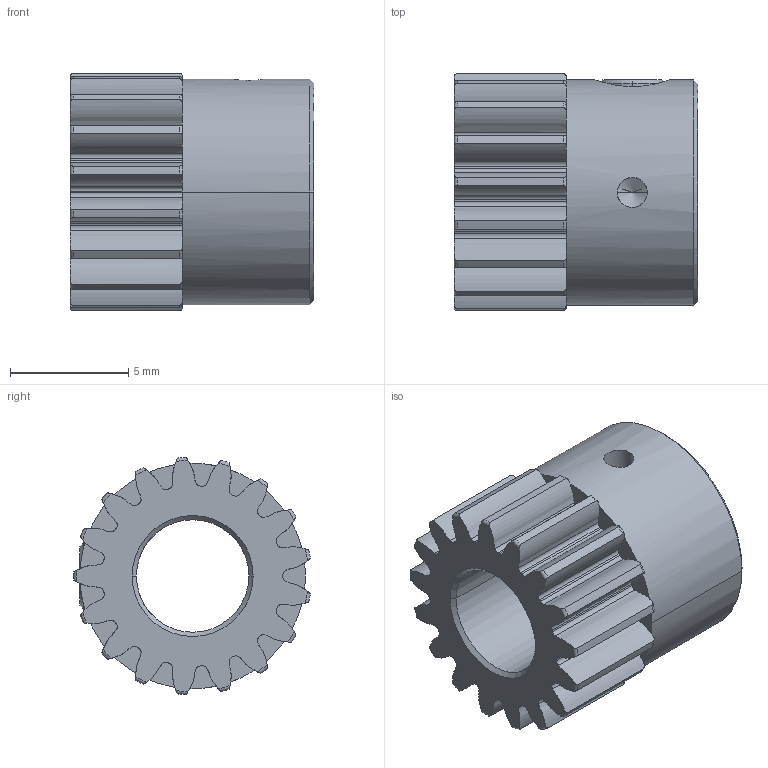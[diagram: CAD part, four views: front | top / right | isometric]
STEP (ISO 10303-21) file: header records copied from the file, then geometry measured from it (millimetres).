
FILE_DESCRIPTION((''),'2;1');
FILE_NAME('35341','2011-01-23T',('carefree'),(''),'PRO/ENGINEER BY PARAMETRIC TECHNOLOGY CORPORATION, 2005030','PRO/ENGINEER BY PARAMETRIC TECHNOLOGY CORPORATION, 2005030','');
FILE_SCHEMA(('CONFIG_CONTROL_DESIGN'));
Length unit declared in the file: inch
Products named in the file (1): 35341
Bounding box: 10.31 x 10 x 10.04 mm (x, y, z)
Volume: 501.8 mm3; surface area: 736.5 mm2
Topology: 2 solids, 2 shells, 213 faces, 571 edges, 361 vertices
Faces by surface type: cylinder 80, plane 51, extrusion 34, torus 34, cone 12, bspline 2
Entity records: 8887 total; most frequent: CARTESIAN_POINT 3697, ORIENTED_EDGE 1138, DIRECTION 1009, EDGE_CURVE 569, AXIS2_PLACEMENT_3D 409, VERTEX_POINT 361, CIRCLE 232, EDGE_LOOP 218
